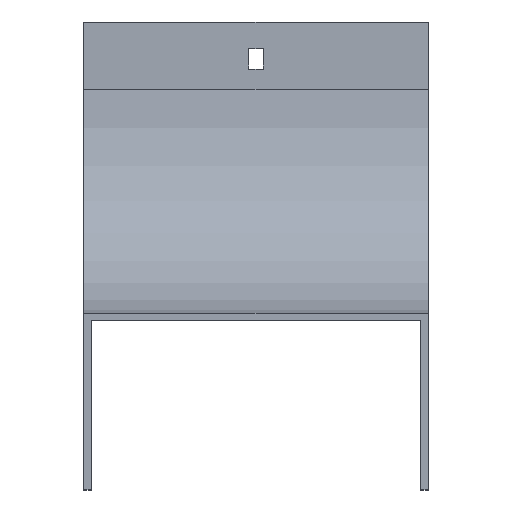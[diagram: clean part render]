
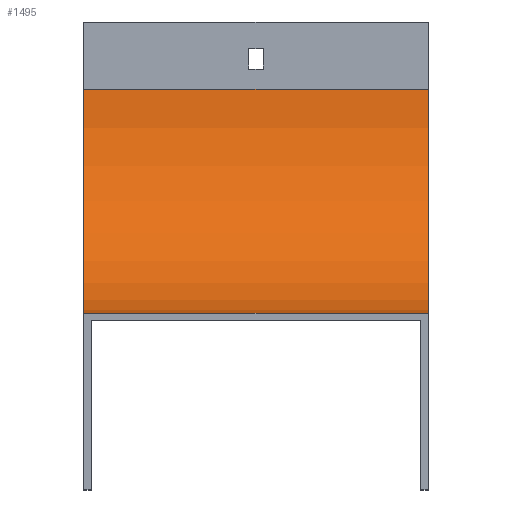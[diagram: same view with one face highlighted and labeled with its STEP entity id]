
A CAD part, front view. The second image highlights one B-rep face of the part: STEP entity #1495.
In plain terms, the highlighted cylindrical face has radius 100 mm (diameter 200 mm), a partial arc.
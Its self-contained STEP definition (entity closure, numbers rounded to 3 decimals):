
#21 = CARTESIAN_POINT ( 'NONE',  ( -77., 0., -30. ) ) ;
#76 = DIRECTION ( 'NONE',  ( -1., 0., 0. ) ) ;
#160 = DIRECTION ( 'NONE',  ( 0., 0., 1. ) ) ;
#173 = AXIS2_PLACEMENT_3D ( 'NONE', #919, #1527, #160 ) ;
#175 = ORIENTED_EDGE ( 'NONE', *, *, #1806, .F. ) ;
#264 = ORIENTED_EDGE ( 'NONE', *, *, #1285, .F. ) ;
#394 = CARTESIAN_POINT ( 'NONE',  ( -77., -100., -130. ) ) ;
#477 = EDGE_CURVE ( 'NONE', #1729, #1111, #1946, .T. ) ;
#574 = VERTEX_POINT ( 'NONE', #748 ) ;
#684 = DIRECTION ( 'NONE',  ( 0., 0., 1. ) ) ;
#701 = AXIS2_PLACEMENT_3D ( 'NONE', #1588, #76, #684 ) ;
#736 = CARTESIAN_POINT ( 'NONE',  ( 77., -100., -130. ) ) ;
#744 = LINE ( 'NONE', #1352, #1538 ) ;
#748 = CARTESIAN_POINT ( 'NONE',  ( 77., 0., -30. ) ) ;
#846 = EDGE_LOOP ( 'NONE', ( #979, #175, #264, #1383 ) ) ;
#919 = CARTESIAN_POINT ( 'NONE',  ( 77., -100., -30. ) ) ;
#979 = ORIENTED_EDGE ( 'NONE', *, *, #477, .T. ) ;
#1089 = CIRCLE ( 'NONE', #173, 100. ) ;
#1111 = VERTEX_POINT ( 'NONE', #394 ) ;
#1143 = CARTESIAN_POINT ( 'NONE',  ( 77., -100., -130. ) ) ;
#1197 = EDGE_CURVE ( 'NONE', #574, #1729, #744, .T. ) ;
#1285 = EDGE_CURVE ( 'NONE', #574, #1693, #1089, .T. ) ;
#1352 = CARTESIAN_POINT ( 'NONE',  ( 77., 0., -30. ) ) ;
#1383 = ORIENTED_EDGE ( 'NONE', *, *, #1197, .T. ) ;
#1398 = VECTOR ( 'NONE', #1602, 1000. ) ;
#1445 = FACE_OUTER_BOUND ( 'NONE', #846, .T. ) ;
#1465 = CYLINDRICAL_SURFACE ( 'NONE', #701, 100. ) ;
#1495 = ADVANCED_FACE ( 'NONE', ( #1445 ), #1465, .F. ) ;
#1527 = DIRECTION ( 'NONE',  ( -1., 0., 0. ) ) ;
#1538 = VECTOR ( 'NONE', #1935, 1000. ) ;
#1588 = CARTESIAN_POINT ( 'NONE',  ( 77., -100., -30. ) ) ;
#1602 = DIRECTION ( 'NONE',  ( -1., 0., 0. ) ) ;
#1628 = DIRECTION ( 'NONE',  ( 0., 0., 1. ) ) ;
#1693 = VERTEX_POINT ( 'NONE', #736 ) ;
#1699 = AXIS2_PLACEMENT_3D ( 'NONE', #1875, #1779, #1628 ) ;
#1729 = VERTEX_POINT ( 'NONE', #21 ) ;
#1779 = DIRECTION ( 'NONE',  ( -1., 0., 0. ) ) ;
#1806 = EDGE_CURVE ( 'NONE', #1693, #1111, #1862, .T. ) ;
#1862 = LINE ( 'NONE', #1143, #1398 ) ;
#1875 = CARTESIAN_POINT ( 'NONE',  ( -77., -100., -30. ) ) ;
#1935 = DIRECTION ( 'NONE',  ( -1., 0., 0. ) ) ;
#1946 = CIRCLE ( 'NONE', #1699, 100. ) ;
